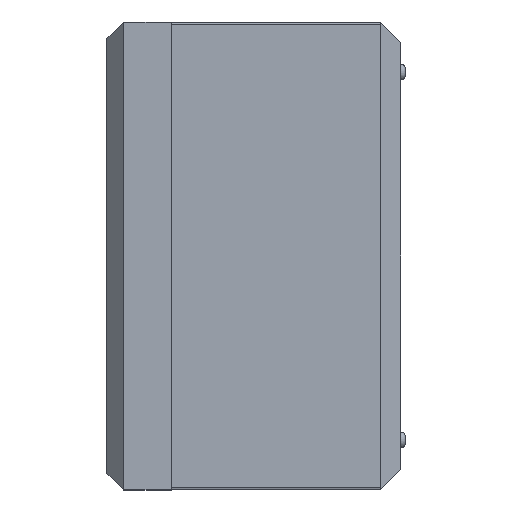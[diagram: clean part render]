
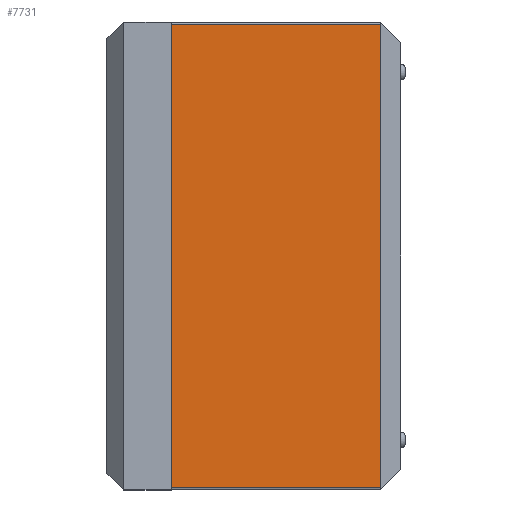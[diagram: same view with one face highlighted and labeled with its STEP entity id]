
A CAD part, left-side view. The second image highlights one B-rep face of the part: STEP entity #7731.
In plain terms, the highlighted planar face has unit normal (-1, 0, 0).
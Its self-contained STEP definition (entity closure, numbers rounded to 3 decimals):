
#309 = CARTESIAN_POINT ( 'NONE',  ( -100., 0., -55.6 ) ) ;
#1144 = DIRECTION ( 'NONE',  ( 0., 1., 0. ) ) ;
#1702 = CARTESIAN_POINT ( 'NONE',  ( -100., -55., -56.1 ) ) ;
#2409 = VECTOR ( 'NONE', #10037, 1000. ) ;
#2493 = CARTESIAN_POINT ( 'NONE',  ( -100., -50., -55.6 ) ) ;
#2495 = EDGE_LOOP ( 'NONE', ( #2771, #6193, #17075, #3921 ) ) ;
#2771 = ORIENTED_EDGE ( 'NONE', *, *, #10607, .F. ) ;
#3026 = DIRECTION ( 'NONE',  ( -1., 0., 0. ) ) ;
#3266 = LINE ( 'NONE', #8621, #9034 ) ;
#3467 = CARTESIAN_POINT ( 'NONE',  ( -100., -55., -55.6 ) ) ;
#3921 = ORIENTED_EDGE ( 'NONE', *, *, #7125, .T. ) ;
#5826 = LINE ( 'NONE', #6428, #15519 ) ;
#5865 = AXIS2_PLACEMENT_3D ( 'NONE', #1702, #3026, #12258 ) ;
#5944 = LINE ( 'NONE', #3467, #2409 ) ;
#6193 = ORIENTED_EDGE ( 'NONE', *, *, #16509, .T. ) ;
#6428 = CARTESIAN_POINT ( 'NONE',  ( -100., -55., 55.6 ) ) ;
#6738 = VERTEX_POINT ( 'NONE', #2493 ) ;
#7125 = EDGE_CURVE ( 'NONE', #14383, #8015, #5826, .T. ) ;
#7731 = ADVANCED_FACE ( 'NONE', ( #11747 ), #9598, .T. ) ;
#8015 = VERTEX_POINT ( 'NONE', #10115 ) ;
#8621 = CARTESIAN_POINT ( 'NONE',  ( -100., -50., 56.1 ) ) ;
#9034 = VECTOR ( 'NONE', #9945, 1000. ) ;
#9598 = PLANE ( 'NONE',  #5865 ) ;
#9945 = DIRECTION ( 'NONE',  ( 0., 0., 1. ) ) ;
#9974 = EDGE_CURVE ( 'NONE', #6738, #14383, #3266, .T. ) ;
#10037 = DIRECTION ( 'NONE',  ( 0., -1., 0. ) ) ;
#10115 = CARTESIAN_POINT ( 'NONE',  ( -100., 0., 55.6 ) ) ;
#10607 = EDGE_CURVE ( 'NONE', #14422, #8015, #15012, .T. ) ;
#11747 = FACE_OUTER_BOUND ( 'NONE', #2495, .T. ) ;
#12258 = DIRECTION ( 'NONE',  ( 0., 0., 1. ) ) ;
#13426 = CARTESIAN_POINT ( 'NONE',  ( -100., -50., 55.6 ) ) ;
#14383 = VERTEX_POINT ( 'NONE', #13426 ) ;
#14422 = VERTEX_POINT ( 'NONE', #309 ) ;
#14596 = VECTOR ( 'NONE', #14840, 1000. ) ;
#14840 = DIRECTION ( 'NONE',  ( 0., 0., 1. ) ) ;
#15012 = LINE ( 'NONE', #16169, #14596 ) ;
#15519 = VECTOR ( 'NONE', #1144, 1000. ) ;
#16169 = CARTESIAN_POINT ( 'NONE',  ( -100., 0., -56.1 ) ) ;
#16509 = EDGE_CURVE ( 'NONE', #14422, #6738, #5944, .T. ) ;
#17075 = ORIENTED_EDGE ( 'NONE', *, *, #9974, .T. ) ;
